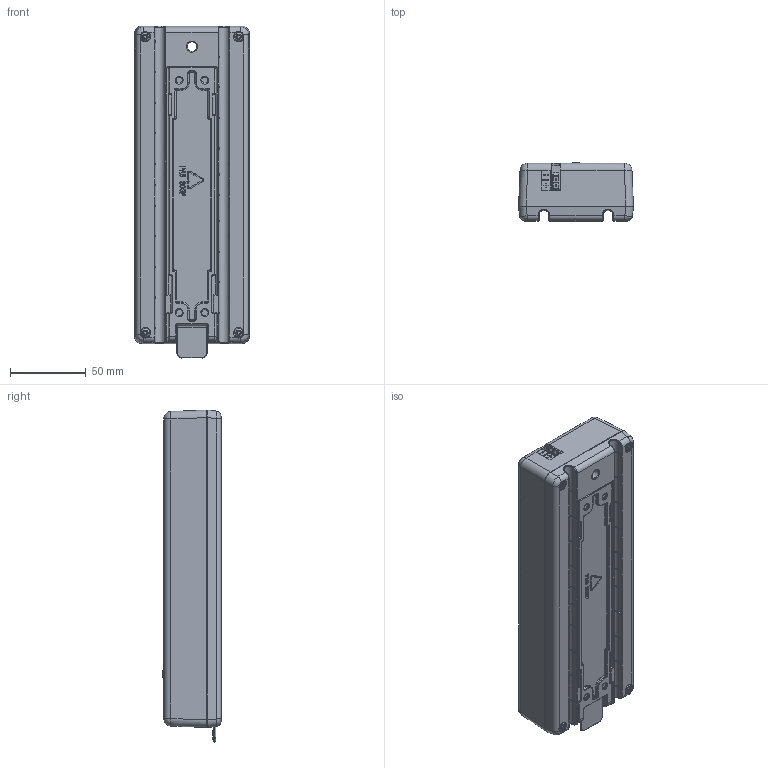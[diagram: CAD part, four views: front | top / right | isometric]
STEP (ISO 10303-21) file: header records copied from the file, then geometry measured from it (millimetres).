
FILE_DESCRIPTION((''),'2;1');
FILE_NAME('BA001','2014-04-29T',('bs'),(''),'PRO/ENGINEER BY PARAMETRIC TECHNOLOGY CORPORATION, 2014000','PRO/ENGINEER BY PARAMETRIC TECHNOLOGY CORPORATION, 2014000','');
FILE_SCHEMA(('CONFIG_CONTROL_DESIGN'));
Products named in the file (1): BA001
Bounding box: 76 x 38.42 x 219.64 mm (x, y, z)
Volume: 557383.4 mm3; surface area: 65732.1 mm2
Topology: 1 solids, 6 shells, 1883 faces, 4972 edges, 3135 vertices
Faces by surface type: plane 896, cylinder 560, torus 160, bspline 129, extrusion 88, sphere 50
Entity records: 67106 total; most frequent: CARTESIAN_POINT 21772, ORIENTED_EDGE 9844, DIRECTION 8753, EDGE_CURVE 4922, VERTEX_POINT 3135, VECTOR 3127, LINE 3039, AXIS2_PLACEMENT_3D 2813
